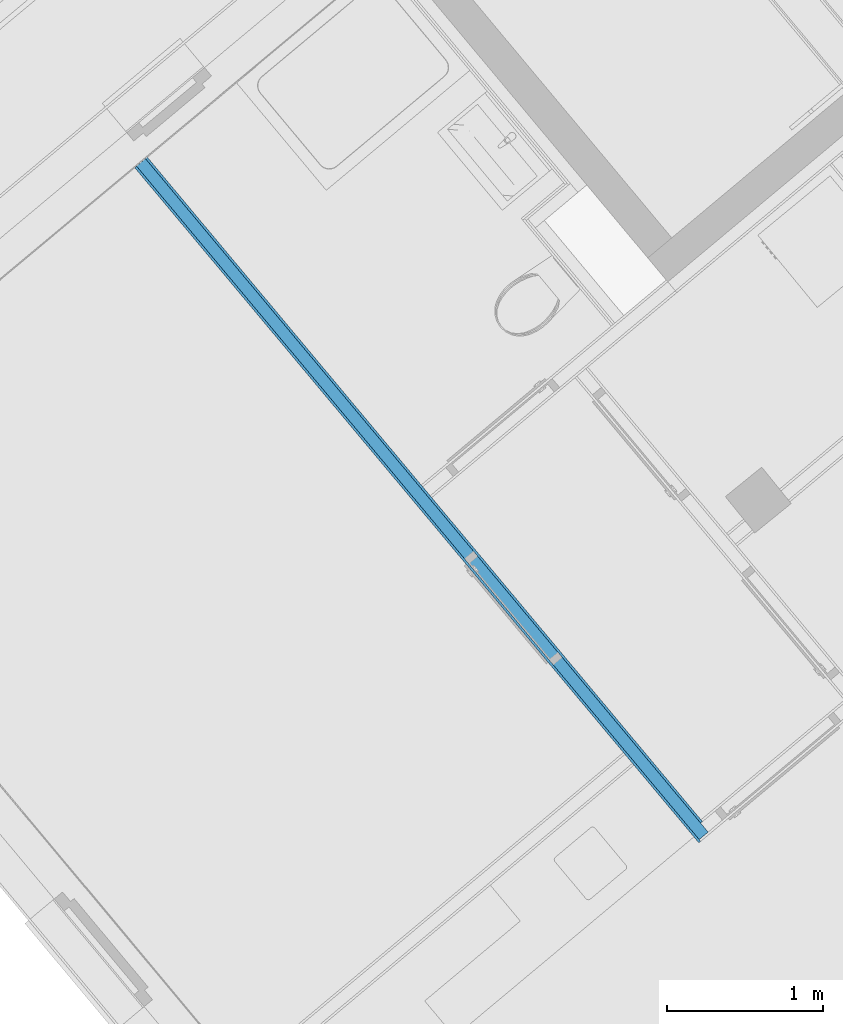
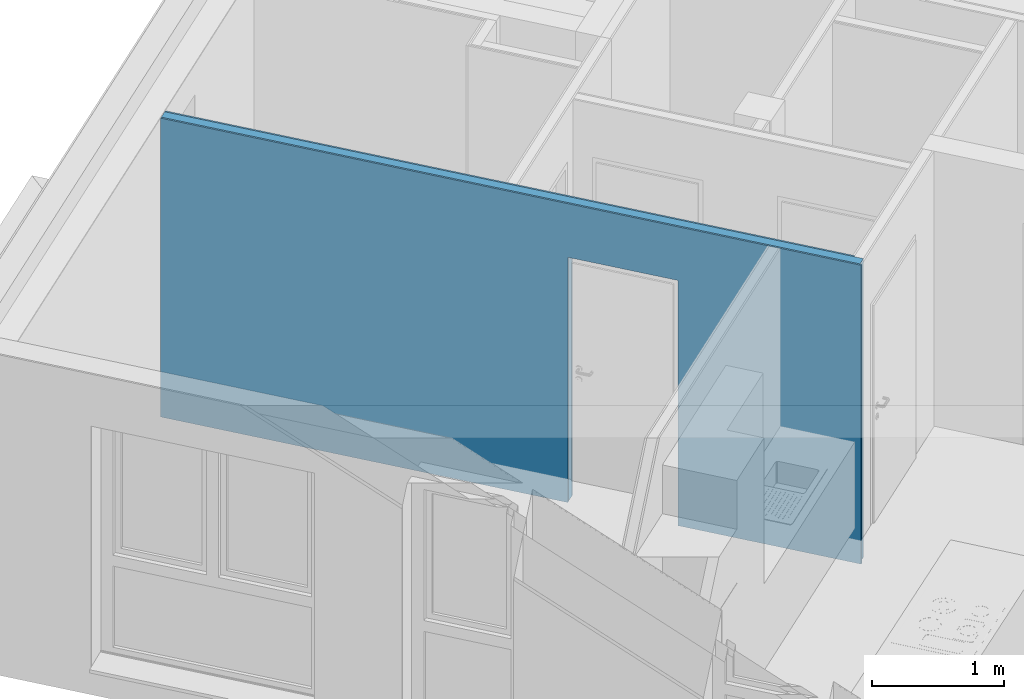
# One storey, part 2 of 61: 3 building element parts, 1 opening, 1 element without a shape of its own.
"""IFC4 building model written with IfcOpenShell, lengths in metres."""

from ifc_helpers import new_model, entity, si_unit, converted_unit, derived_unit, direction, frame, origin_with_axes, place, context, subcontext, project, spatial, polygons, material, type_object, element, aggregate, save


model = new_model("IFC4")

# Units and contexts
model_context = context("Model", 3, precision=1e-05, world=origin_with_axes(), true_north=direction((0.0, 1.0)))
body_context = subcontext(model_context, "Body", "Model", "MODEL_VIEW")
ifc_project = project(units=[si_unit("LENGTHUNIT", "METRE"), si_unit("AREAUNIT", "SQUARE_METRE"), si_unit("VOLUMEUNIT", "CUBIC_METRE"), converted_unit("PLANEANGLEUNIT", "DEGREE", entity("IfcPlaneAngleMeasure", 0.0174532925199), si_unit("PLANEANGLEUNIT", "RADIAN"), dimensions=[0, 0, 0, 0, 0, 0, 0]), converted_unit("TIMEUNIT", "Year", entity("IfcTimeMeasure", 31556926.0), si_unit("TIMEUNIT", "SECOND"), dimensions=[0, 0, 1, 0, 0, 0, 0]), si_unit("MASSUNIT", "GRAM", prefix="KILO"), si_unit("THERMODYNAMICTEMPERATUREUNIT", "DEGREE_CELSIUS"), si_unit("LUMINOUSINTENSITYUNIT", "LUMEN"), si_unit("ENERGYUNIT", "JOULE", prefix="MEGA"), derived_unit("THERMALCONDUCTANCEUNIT", [(si_unit("POWERUNIT", "WATT"), 1), (si_unit("LENGTHUNIT", "METRE"), -1), (si_unit("THERMODYNAMICTEMPERATUREUNIT", "KELVIN"), -1)]), derived_unit("SPECIFICHEATCAPACITYUNIT", [(si_unit("ENERGYUNIT", "JOULE"), 1), (si_unit("MASSUNIT", "GRAM", prefix="KILO"), -1), (si_unit("THERMODYNAMICTEMPERATUREUNIT", "KELVIN"), -1)]), derived_unit("MASSDENSITYUNIT", [(si_unit("MASSUNIT", "GRAM", prefix="KILO"), 1), (si_unit("VOLUMEUNIT", "CUBIC_METRE"), -1)])], contexts=[model_context])

# Site, building, storey
site_placement = place(None, frame((-0.00153261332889, -0.00661245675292, 0.0), z_axis=(0.0, 0.0, 1.0), x_axis=(1.0, 0.0, 0.0)))
site = spatial("IfcSite", under=ifc_project, at=site_placement, Name="Gelände", CompositionType="ELEMENT")
building_placement = place(site_placement, origin_with_axes())
building = spatial("IfcBuilding", under=site, at=building_placement, Name="Gebäude", CompositionType="ELEMENT")
storey_placement = place(building_placement, frame((0.0, 0.0, 5.7), z_axis=(0.0, 0.0, 1.0), x_axis=(1.0, 0.0, 0.0)))
storey = spatial("IfcBuildingStorey", under=building, at=storey_placement, Name="DG1", CompositionType="ELEMENT", Elevation=5.7)

# Wall, opening, building element parts
wall_type = type_object("IfcWallType", Name="IW LB 01 Leichtbautrennwand einfach 10,5 cm 105", PredefinedType="NOTDEFINED")
wall_placement = place(storey_placement, frame((-5.90501544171, 21.3396701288, 0.0), z_axis=(0.0, 0.0, 1.0), x_axis=(0.641209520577, -0.767365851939, 0.0)))
wall = element("IfcWall", 1, at=wall_placement, inside=storey, type_object=wall_type, Name="Wand-012", PredefinedType="NOTDEFINED")
opening_placement = place(wall_placement, frame((4.14617434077, 0.0, 0.22), z_axis=(0.0, 0.0, 1.0), x_axis=(1.0, 0.0, 0.0)))
element("IfcOpeningElement", 2, at=opening_placement, cuts=wall, Name="Tür-016", context=body_context, identifier="Reference", shape_type="Tessellation", body=[
    polygons([(0.445, 3.03878643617, 2.045), (0.445, 3.03878643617, -0.22), (-0.445, 3.03878643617, -0.22), (-0.445, 3.03878643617, 2.045), (0.445, -2.93378643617, 2.045), (0.445, -2.93378643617, -0.22), (-0.445, -2.93378643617, -0.22), (-0.445, -2.93378643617, 2.045)], [[[1, 2, 3, 4]], [[5, 6, 2, 1]], [[6, 7, 3, 2]], [[7, 8, 4, 3]], [[8, 5, 1, 4]], [[7, 6, 5, 8]]], closed=True),
])
ifc_material_1 = material(Name="Gipskarton")
building_element_part_1_placement = place(wall_placement, origin_with_axes())
building_element_part_1 = element("IfcBuildingElementPart", 3, at=building_element_part_1_placement, material=ifc_material_1, Name="Gipskarton", PredefinedType="NOTDEFINED", context=body_context, shape_type="Tessellation", body=[
    polygons([(3.70117434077, 0.105, 2.265), (3.70117434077, 0.105, 0.22), (3.7011743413, 0.105, 0.0), (0.419999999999, 0.105, 0.0), (0.419999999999, 0.105, 2.76), (5.97543570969, 0.105, 2.76), (5.97543570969, 0.105, 0.0), (4.59117434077, 0.105, 0.0), (4.59117434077, 0.105, 0.22), (4.59117434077, 0.105, 2.265), (3.70117434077, 0.09, 2.265), (3.70117434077, 0.09, 0.22), (3.70117434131, 0.09, 0.0), (0.419999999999, 0.09, 0.0), (0.419999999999, 0.09, 2.76), (5.97543570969, 0.09, 2.76), (5.97543570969, 0.09, 0.0), (4.59117434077, 0.09, 0.0), (4.59117434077, 0.09, 0.22), (4.59117434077, 0.09, 2.265)], [[[1, 2, 3, 4, 5, 6, 7, 8, 9, 10]], [[2, 1, 11, 12]], [[2, 12, 13, 3]], [[13, 14, 4, 3]], [[4, 14, 15, 5]], [[6, 5, 15, 16]], [[7, 6, 16, 17]], [[8, 7, 17, 18]], [[19, 9, 8, 18]], [[10, 9, 19, 20]], [[1, 10, 20, 11]], [[20, 19, 18, 17, 16, 15, 14, 13, 12, 11]]], closed=True),
])
ifc_material_2 = material(Name="Mineralwolle weich")
building_element_part_2_placement = place(wall_placement, origin_with_axes())
building_element_part_2 = element("IfcBuildingElementPart", 4, at=building_element_part_2_placement, material=ifc_material_2, Name="Mineralwolle weich", PredefinedType="NOTDEFINED", context=body_context, shape_type="Tessellation", body=[
    polygons([(3.70117434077, 0.09, 2.265), (3.70117434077, 0.09, 0.22), (3.70117434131, 0.09, 0.0), (0.419999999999, 0.09, 0.0), (0.419999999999, 0.09, 2.76), (6.05043570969, 0.09, 2.76), (6.05043570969, 0.09, 0.0), (4.59117434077, 0.09, 0.0), (4.59117434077, 0.09, 0.22), (4.59117434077, 0.09, 2.265), (3.70117434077, 0.015, 2.265), (3.70117434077, 0.015, 0.22), (3.70117434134, 0.015, 0.0), (0.419999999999, 0.015, 0.0), (0.419999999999, 0.015, 2.76), (6.0504357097, 0.015, 2.76), (6.0504357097, 0.015, 0.0), (4.59117434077, 0.015, 0.0), (4.59117434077, 0.015, 0.22), (4.59117434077, 0.015, 2.265)], [[[1, 2, 3, 4, 5, 6, 7, 8, 9, 10]], [[2, 1, 11, 12]], [[2, 12, 13, 3]], [[13, 14, 4, 3]], [[4, 14, 15, 5]], [[6, 5, 15, 16]], [[7, 6, 16, 17]], [[8, 7, 17, 18]], [[19, 9, 8, 18]], [[10, 9, 19, 20]], [[1, 10, 20, 11]], [[20, 19, 18, 17, 16, 15, 14, 13, 12, 11]]], closed=True),
])
building_element_part_3_placement = place(wall_placement, origin_with_axes())
building_element_part_3 = element("IfcBuildingElementPart", 5, at=building_element_part_3_placement, material=ifc_material_1, Name="Gipskarton", PredefinedType="NOTDEFINED", context=body_context, shape_type="Tessellation", body=[
    polygons([(3.70117434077, 0.015, 2.265), (3.70117434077, 0.015, 0.22), (3.70117434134, 0.015, 0.0), (0.419999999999, 0.015, 0.0), (0.419999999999, 0.015, 2.76), (6.0654357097, 0.015, 2.76), (6.0654357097, 0.015, 0.0), (4.59117434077, 0.015, 0.0), (4.59117434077, 0.015, 0.22), (4.59117434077, 0.015, 2.265), (3.70117434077, -2.18705835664e-08, 2.265), (3.70117434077, -2.35908661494e-08, 0.22), (3.70117434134, -2.35908661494e-08, 0.0), (0.419999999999, 0.0, 0.0), (0.419999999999, 0.0, 2.76), (6.0654357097, 0.0, 2.76), (6.0654357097, 0.0, 0.0), (4.59117434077, -2.18705853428e-08, 0.0), (4.59117434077, -2.18705835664e-08, 0.22), (4.59117434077, -2.18705835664e-08, 2.265)], [[[1, 2, 3, 4, 5, 6, 7, 8, 9, 10]], [[2, 1, 11, 12]], [[2, 12, 13, 3]], [[13, 14, 4, 3]], [[4, 14, 15, 5]], [[6, 5, 15, 16]], [[7, 6, 16, 17]], [[8, 7, 17, 18]], [[19, 9, 8, 18]], [[10, 9, 19, 20]], [[1, 10, 20, 11]], [[20, 19, 18, 17, 16, 15, 14, 13, 12, 11]]], closed=True),
])
aggregate(wall, [building_element_part_1, building_element_part_2, building_element_part_3])

save(model, "model.ifc")
